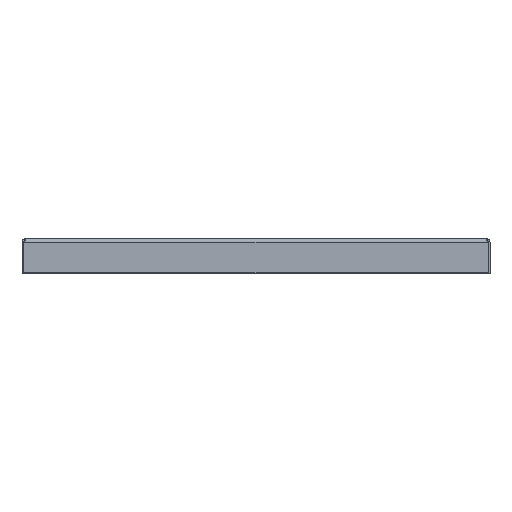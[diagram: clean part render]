
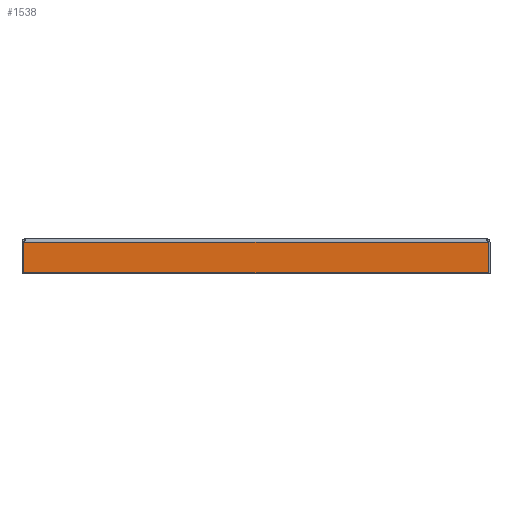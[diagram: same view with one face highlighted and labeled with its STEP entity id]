
A CAD part, front view. The second image highlights one B-rep face of the part: STEP entity #1538.
In plain terms, the highlighted planar face has unit normal (0, -1, 0).
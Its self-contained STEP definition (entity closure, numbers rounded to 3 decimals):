
#98 = CARTESIAN_POINT ( 'NONE',  ( 260.929, -311.5, -4. ) ) ;
#118 = LINE ( 'NONE', #151, #3163 ) ;
#123 = CARTESIAN_POINT ( 'NONE',  ( 0., -311.5, 0. ) ) ;
#151 = CARTESIAN_POINT ( 'NONE',  ( 260.929, -311.5, -4. ) ) ;
#468 = LINE ( 'NONE', #2729, #1168 ) ;
#581 = VECTOR ( 'NONE', #814, 1000. ) ;
#720 = ORIENTED_EDGE ( 'NONE', *, *, #1567, .F. ) ;
#779 = ORIENTED_EDGE ( 'NONE', *, *, #1580, .F. ) ;
#814 = DIRECTION ( 'NONE',  ( 0., 0., -1. ) ) ;
#849 = VERTEX_POINT ( 'NONE', #3045 ) ;
#926 = CARTESIAN_POINT ( 'NONE',  ( 259., -311.5, -4. ) ) ;
#991 = EDGE_LOOP ( 'NONE', ( #779, #720, #1381, #2515 ) ) ;
#1168 = VECTOR ( 'NONE', #1227, 1000. ) ;
#1227 = DIRECTION ( 'NONE',  ( 1., 0., 0. ) ) ;
#1381 = ORIENTED_EDGE ( 'NONE', *, *, #3001, .T. ) ;
#1400 = CARTESIAN_POINT ( 'NONE',  ( -246.929, -311.5, -38. ) ) ;
#1538 = ADVANCED_FACE ( 'NONE', ( #2382 ), #3244, .F. ) ;
#1551 = LINE ( 'NONE', #2021, #581 ) ;
#1567 = EDGE_CURVE ( 'NONE', #2466, #3352, #1665, .T. ) ;
#1580 = EDGE_CURVE ( 'NONE', #3352, #849, #118, .T. ) ;
#1613 = AXIS2_PLACEMENT_3D ( 'NONE', #123, #2449, #2723 ) ;
#1665 = LINE ( 'NONE', #926, #2873 ) ;
#2021 = CARTESIAN_POINT ( 'NONE',  ( -246.929, -311.5, -4. ) ) ;
#2382 = FACE_OUTER_BOUND ( 'NONE', #991, .T. ) ;
#2406 = DIRECTION ( 'NONE',  ( 1., 0., 0. ) ) ;
#2438 = CARTESIAN_POINT ( 'NONE',  ( -246.929, -311.5, -4. ) ) ;
#2449 = DIRECTION ( 'NONE',  ( 0., 1., 0. ) ) ;
#2466 = VERTEX_POINT ( 'NONE', #2438 ) ;
#2515 = ORIENTED_EDGE ( 'NONE', *, *, #3175, .T. ) ;
#2536 = VERTEX_POINT ( 'NONE', #1400 ) ;
#2723 = DIRECTION ( 'NONE',  ( 0., 0., 1. ) ) ;
#2729 = CARTESIAN_POINT ( 'NONE',  ( 0., -311.5, -38. ) ) ;
#2873 = VECTOR ( 'NONE', #2406, 1000. ) ;
#3001 = EDGE_CURVE ( 'NONE', #2466, #2536, #1551, .T. ) ;
#3045 = CARTESIAN_POINT ( 'NONE',  ( 260.929, -311.5, -38. ) ) ;
#3163 = VECTOR ( 'NONE', #3218, 1000. ) ;
#3175 = EDGE_CURVE ( 'NONE', #2536, #849, #468, .T. ) ;
#3218 = DIRECTION ( 'NONE',  ( 0., 0., -1. ) ) ;
#3244 = PLANE ( 'NONE',  #1613 ) ;
#3352 = VERTEX_POINT ( 'NONE', #98 ) ;
